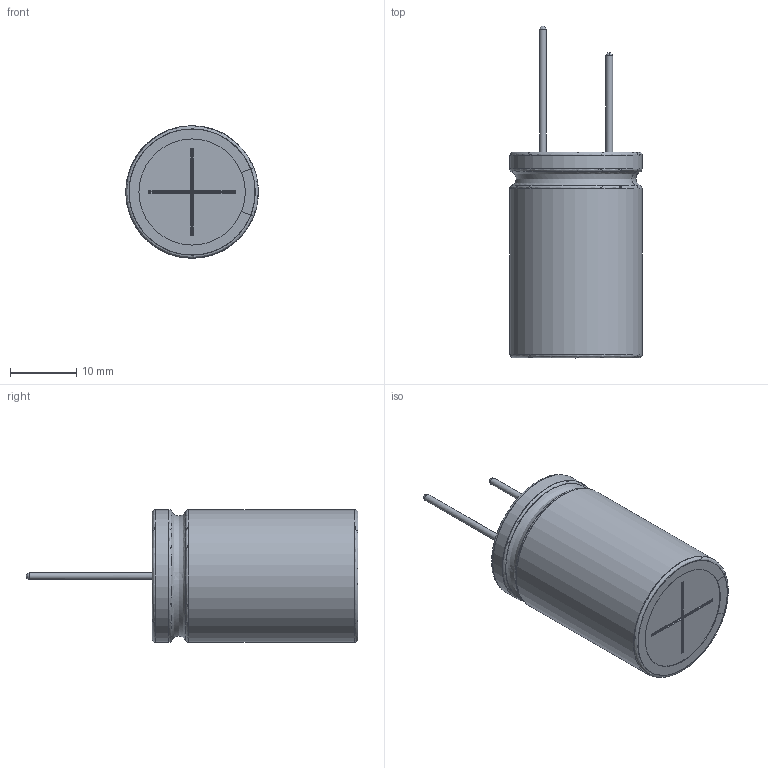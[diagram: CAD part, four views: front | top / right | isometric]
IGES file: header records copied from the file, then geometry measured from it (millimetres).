
Start section: JAMA-IS VERSION  1.0
Bounding box: 19.97 x 50 x 20 mm (x, y, z)
Surface area: 7023.9 mm2 (no closed solid volume)
Topology: 0 solids, 0 shells, 100 faces, 1336 edges, 1316 vertices
Faces by surface type: bspline 100
